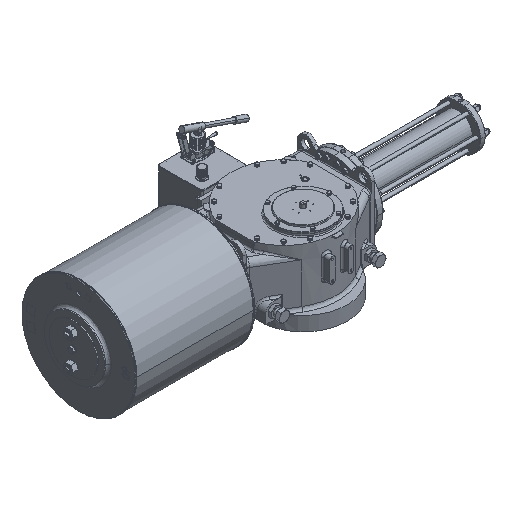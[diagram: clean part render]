
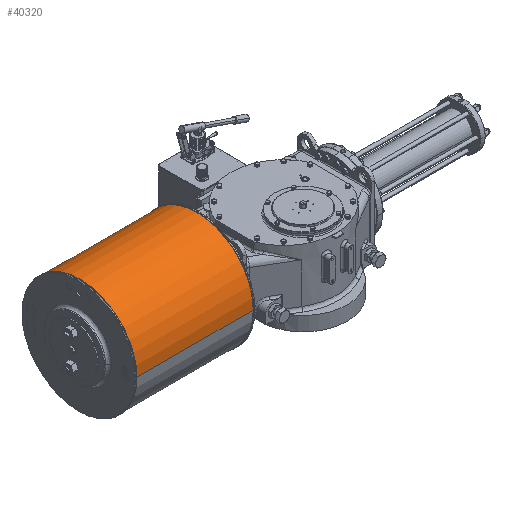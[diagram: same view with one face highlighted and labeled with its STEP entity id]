
A CAD part, isometric view. The second image highlights one B-rep face of the part: STEP entity #40320.
In plain terms, the highlighted cylindrical face has radius 304.8 mm (diameter 609.6 mm), a partial arc.
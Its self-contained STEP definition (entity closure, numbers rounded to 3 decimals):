
#15878 = EDGE_CURVE ( 'NONE', #49509, #107908, #69128, .T. ) ;
#17399 = CARTESIAN_POINT ( 'NONE',  ( -1034., 475.8, 138. ) ) ;
#18789 = DIRECTION ( 'NONE',  ( 0., -1., 0. ) ) ;
#19997 = DIRECTION ( 'NONE',  ( -1., 0., 0. ) ) ;
#28282 = CIRCLE ( 'NONE', #42678, 304.8 ) ;
#32301 = CARTESIAN_POINT ( 'NONE',  ( -404., 475.8, 138. ) ) ;
#37443 = LINE ( 'NONE', #89524, #86284 ) ;
#40320 = ADVANCED_FACE ( 'NONE', ( #65236 ), #75391, .T. ) ;
#42678 = AXIS2_PLACEMENT_3D ( 'NONE', #95277, #62424, #18789 ) ;
#45509 = CARTESIAN_POINT ( 'NONE',  ( -544., 475.8, 138. ) ) ;
#47415 = AXIS2_PLACEMENT_3D ( 'NONE', #96959, #96387, #78807 ) ;
#49509 = VERTEX_POINT ( 'NONE', #17399 ) ;
#55014 = DIRECTION ( 'NONE',  ( -1., 0., 0. ) ) ;
#58104 = EDGE_CURVE ( 'NONE', #58875, #66166, #28282, .T. ) ;
#58875 = VERTEX_POINT ( 'NONE', #75977 ) ;
#59017 = VECTOR ( 'NONE', #19997, 1000. ) ;
#62424 = DIRECTION ( 'NONE',  ( -1., 0., 0. ) ) ;
#63061 = LINE ( 'NONE', #45509, #59017 ) ;
#63731 = ORIENTED_EDGE ( 'NONE', *, *, #107238, .F. ) ;
#65002 = ORIENTED_EDGE ( 'NONE', *, *, #15878, .T. ) ;
#65236 = FACE_OUTER_BOUND ( 'NONE', #84326, .T. ) ;
#66166 = VERTEX_POINT ( 'NONE', #32301 ) ;
#68228 = ORIENTED_EDGE ( 'NONE', *, *, #91525, .T. ) ;
#69128 = CIRCLE ( 'NONE', #47415, 304.8 ) ;
#75391 = CYLINDRICAL_SURFACE ( 'NONE', #94627, 304.8 ) ;
#75977 = CARTESIAN_POINT ( 'NONE',  ( -404., -133.8, 138. ) ) ;
#78807 = DIRECTION ( 'NONE',  ( 0., -1., 0. ) ) ;
#82215 = DIRECTION ( 'NONE',  ( -1., 0., 0. ) ) ;
#83127 = CARTESIAN_POINT ( 'NONE',  ( -1034., -133.8, 138. ) ) ;
#84326 = EDGE_LOOP ( 'NONE', ( #107112, #68228, #65002, #63731 ) ) ;
#86284 = VECTOR ( 'NONE', #55014, 1000. ) ;
#89524 = CARTESIAN_POINT ( 'NONE',  ( -544., -133.8, 138. ) ) ;
#91525 = EDGE_CURVE ( 'NONE', #66166, #49509, #63061, .T. ) ;
#92948 = DIRECTION ( 'NONE',  ( 0., -1., 0. ) ) ;
#94627 = AXIS2_PLACEMENT_3D ( 'NONE', #109950, #82215, #92948 ) ;
#95277 = CARTESIAN_POINT ( 'NONE',  ( -404., 171., 138. ) ) ;
#96387 = DIRECTION ( 'NONE',  ( 1., 0., 0. ) ) ;
#96959 = CARTESIAN_POINT ( 'NONE',  ( -1034., 171., 138. ) ) ;
#107112 = ORIENTED_EDGE ( 'NONE', *, *, #58104, .T. ) ;
#107238 = EDGE_CURVE ( 'NONE', #58875, #107908, #37443, .T. ) ;
#107908 = VERTEX_POINT ( 'NONE', #83127 ) ;
#109950 = CARTESIAN_POINT ( 'NONE',  ( -544., 171., 138. ) ) ;
